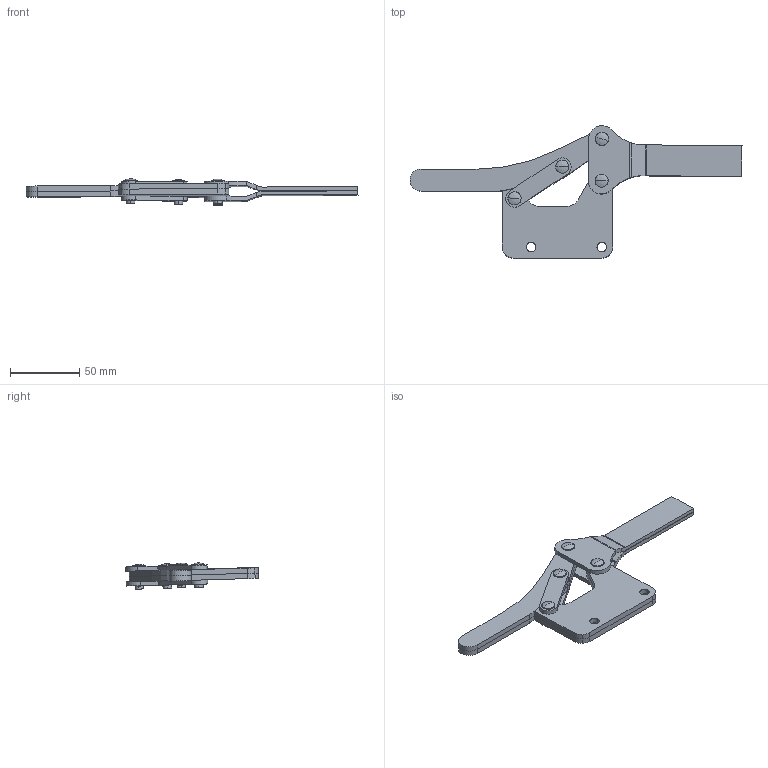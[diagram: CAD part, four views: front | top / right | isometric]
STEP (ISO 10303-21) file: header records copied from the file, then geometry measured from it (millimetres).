
FILE_DESCRIPTION((''),'2;1');
FILE_NAME('C:\lapeer-mfg\600\H-600\HC-600.stp','2005-03-28T18:50:22',('rtaylor'),(''),'Autodesk Inventor 9','Autodesk Inventor 9','');
FILE_SCHEMA(('CONFIG_CONTROL_DESIGN'));
Length unit declared in the file: inch
Products named in the file (6): HC-600; 100038; 130002; 150037; 121019; 110006
Assembly tree (12 placements, depth 2):
  HC-600
    100038  x2
    130002  x2
    150037  x4
    121019  x2
    110006  x2
Bounding box: 239.03 x 95.5 x 18.95 mm (x, y, z)
Volume: 68600.3 mm3; surface area: 48413.3 mm2
Topology: 12 solids, 12 shells, 224 faces, 588 edges, 388 vertices
Faces by surface type: cylinder 106, plane 68, bspline 26, torus 16, sphere 8
Entity records: 4175 total; most frequent: CARTESIAN_POINT 717, DIRECTION 570, ORIENTED_EDGE 496, EDGE_CURVE 248, AXIS2_PLACEMENT_3D 227, VERTEX_POINT 166, CIRCLE 118, VECTOR 116
